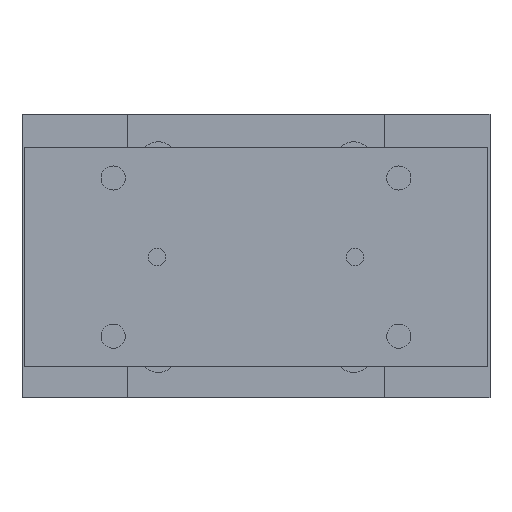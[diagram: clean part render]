
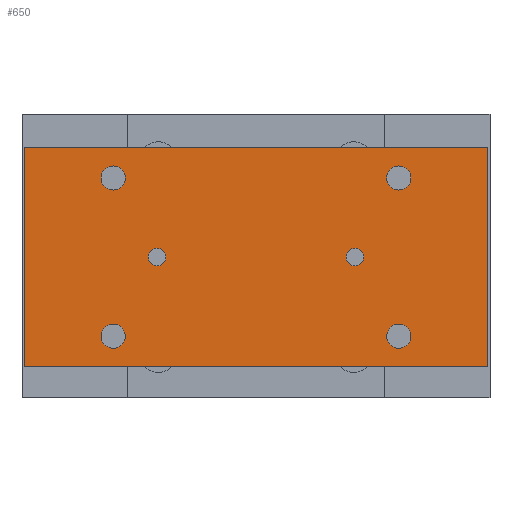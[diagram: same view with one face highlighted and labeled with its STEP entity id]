
A CAD part, left-side view. The second image highlights one B-rep face of the part: STEP entity #650.
In plain terms, the highlighted planar face has unit normal (-1, 0, 0).
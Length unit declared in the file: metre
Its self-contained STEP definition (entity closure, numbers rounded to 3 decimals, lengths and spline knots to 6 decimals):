
#650 = ADVANCED_FACE( '', ( #1442, #1443, #1444, #1445, #1446, #1447, #1448 ), #1449, .T. );
#1442 = FACE_BOUND( '', #2240, .T. );
#1443 = FACE_BOUND( '', #2241, .T. );
#1444 = FACE_BOUND( '', #2242, .T. );
#1445 = FACE_BOUND( '', #2243, .T. );
#1446 = FACE_BOUND( '', #2244, .T. );
#1447 = FACE_BOUND( '', #2245, .T. );
#1448 = FACE_OUTER_BOUND( '', #2246, .T. );
#1449 = PLANE( '', #2247 );
#2240 = EDGE_LOOP( '', ( #3746 ) );
#2241 = EDGE_LOOP( '', ( #3747 ) );
#2242 = EDGE_LOOP( '', ( #3748 ) );
#2243 = EDGE_LOOP( '', ( #3749 ) );
#2244 = EDGE_LOOP( '', ( #3750 ) );
#2245 = EDGE_LOOP( '', ( #3751 ) );
#2246 = EDGE_LOOP( '', ( #3752, #3753, #3754, #3755 ) );
#2247 = AXIS2_PLACEMENT_3D( '', #3756, #3757, #3758 );
#3746 = ORIENTED_EDGE( '', *, *, #4297, .F. );
#3747 = ORIENTED_EDGE( '', *, *, #4197, .F. );
#3748 = ORIENTED_EDGE( '', *, *, #3968, .F. );
#3749 = ORIENTED_EDGE( '', *, *, #3876, .F. );
#3750 = ORIENTED_EDGE( '', *, *, #4284, .F. );
#3751 = ORIENTED_EDGE( '', *, *, #4226, .T. );
#3752 = ORIENTED_EDGE( '', *, *, #4263, .T. );
#3753 = ORIENTED_EDGE( '', *, *, #3784, .T. );
#3754 = ORIENTED_EDGE( '', *, *, #3972, .T. );
#3755 = ORIENTED_EDGE( '', *, *, #3901, .T. );
#3756 = CARTESIAN_POINT( '', ( -0.1445, -0.1055, -0.015 ) );
#3757 = DIRECTION( '', ( -1., 0., 0. ) );
#3758 = DIRECTION( '', ( 0., -1., 0. ) );
#3784 = EDGE_CURVE( '', #4347, #4345, #4348, .T. );
#3876 = EDGE_CURVE( '', #4502, #4502, #4503, .T. );
#3901 = EDGE_CURVE( '', #4547, #4545, #4548, .T. );
#3968 = EDGE_CURVE( '', #4659, #4659, #4660, .T. );
#3972 = EDGE_CURVE( '', #4345, #4547, #4665, .T. );
#4197 = EDGE_CURVE( '', #4990, #4990, #4991, .T. );
#4226 = EDGE_CURVE( '', #5031, #5031, #5032, .T. );
#4263 = EDGE_CURVE( '', #4545, #4347, #5078, .T. );
#4284 = EDGE_CURVE( '', #5099, #5099, #5100, .T. );
#4297 = EDGE_CURVE( '', #5113, #5113, #5114, .T. );
#4345 = VERTEX_POINT( '', #5167 );
#4347 = VERTEX_POINT( '', #5170 );
#4348 = LINE( '', #5171, #5172 );
#4502 = VERTEX_POINT( '', #5362 );
#4503 = CIRCLE( '', #5363, 0.0055 );
#4545 = VERTEX_POINT( '', #5417 );
#4547 = VERTEX_POINT( '', #5420 );
#4548 = LINE( '', #5421, #5422 );
#4659 = VERTEX_POINT( '', #5569 );
#4660 = CIRCLE( '', #5570, 0.0055 );
#4665 = LINE( '', #5576, #5577 );
#4990 = VERTEX_POINT( '', #6152 );
#4991 = CIRCLE( '', #6153, 0.0055 );
#5031 = VERTEX_POINT( '', #6195 );
#5032 = CIRCLE( '', #6196, 0.004 );
#5078 = LINE( '', #6318, #6319 );
#5099 = VERTEX_POINT( '', #6344 );
#5100 = CIRCLE( '', #6345, 0.004 );
#5113 = VERTEX_POINT( '', #6392 );
#5114 = CIRCLE( '', #6393, 0.0055 );
#5167 = CARTESIAN_POINT( '', ( -0.1445, 0.1055, -0.015 ) );
#5170 = CARTESIAN_POINT( '', ( -0.1445, -0.1055, -0.015 ) );
#5171 = CARTESIAN_POINT( '', ( -0.1445, -0.1055, -0.015 ) );
#5172 = VECTOR( '', #6438, 1. );
#5362 = CARTESIAN_POINT( '', ( -0.1445, 0.0595, -0.029 ) );
#5363 = AXIS2_PLACEMENT_3D( '', #6565, #6566, #6567 );
#5417 = CARTESIAN_POINT( '', ( -0.1445, -0.1055, -0.115 ) );
#5420 = CARTESIAN_POINT( '', ( -0.1445, 0.1055, -0.115 ) );
#5421 = CARTESIAN_POINT( '', ( -0.1445, 0.1055, -0.115 ) );
#5422 = VECTOR( '', #6599, 1. );
#5569 = CARTESIAN_POINT( '', ( -0.1445, -0.0705, -0.029 ) );
#5570 = AXIS2_PLACEMENT_3D( '', #6678, #6679, #6680 );
#5576 = CARTESIAN_POINT( '', ( -0.1445, 0.1055, -0.015 ) );
#5577 = VECTOR( '', #6685, 1. );
#6152 = CARTESIAN_POINT( '', ( -0.1445, 0.0595, -0.101 ) );
#6153 = AXIS2_PLACEMENT_3D( '', #6930, #6931, #6932 );
#6195 = CARTESIAN_POINT( '', ( -0.1445, 0.045, -0.069 ) );
#6196 = AXIS2_PLACEMENT_3D( '', #6965, #6966, #6967 );
#6318 = CARTESIAN_POINT( '', ( -0.1445, -0.1055, -0.115 ) );
#6319 = VECTOR( '', #6999, 1. );
#6344 = CARTESIAN_POINT( '', ( -0.1445, -0.045, -0.069 ) );
#6345 = AXIS2_PLACEMENT_3D( '', #7004, #7005, #7006 );
#6392 = CARTESIAN_POINT( '', ( -0.1445, -0.0705, -0.101 ) );
#6393 = AXIS2_PLACEMENT_3D( '', #7008, #7009, #7010 );
#6438 = DIRECTION( '', ( 0., 1., 0. ) );
#6565 = CARTESIAN_POINT( '', ( -0.1445, 0.065, -0.029 ) );
#6566 = DIRECTION( '', ( -1., 0., 0. ) );
#6567 = DIRECTION( '', ( 0., -1., 0. ) );
#6599 = DIRECTION( '', ( 0., -1., 0. ) );
#6678 = CARTESIAN_POINT( '', ( -0.1445, -0.065, -0.029 ) );
#6679 = DIRECTION( '', ( -1., 0., 0. ) );
#6680 = DIRECTION( '', ( 0., -1., 0. ) );
#6685 = DIRECTION( '', ( 0., 0., -1. ) );
#6930 = CARTESIAN_POINT( '', ( -0.1445, 0.065, -0.101 ) );
#6931 = DIRECTION( '', ( -1., 0., 0. ) );
#6932 = DIRECTION( '', ( 0., -1., 0. ) );
#6965 = CARTESIAN_POINT( '', ( -0.1445, 0.045, -0.065 ) );
#6966 = DIRECTION( '', ( 1., 0., 0. ) );
#6967 = DIRECTION( '', ( 0., 0., -1. ) );
#6999 = DIRECTION( '', ( 0., 0., 1. ) );
#7004 = CARTESIAN_POINT( '', ( -0.1445, -0.045, -0.065 ) );
#7005 = DIRECTION( '', ( -1., 0., 0. ) );
#7006 = DIRECTION( '', ( 0., 0., -1. ) );
#7008 = CARTESIAN_POINT( '', ( -0.1445, -0.065, -0.101 ) );
#7009 = DIRECTION( '', ( -1., 0., 0. ) );
#7010 = DIRECTION( '', ( 0., -1., 0. ) );
